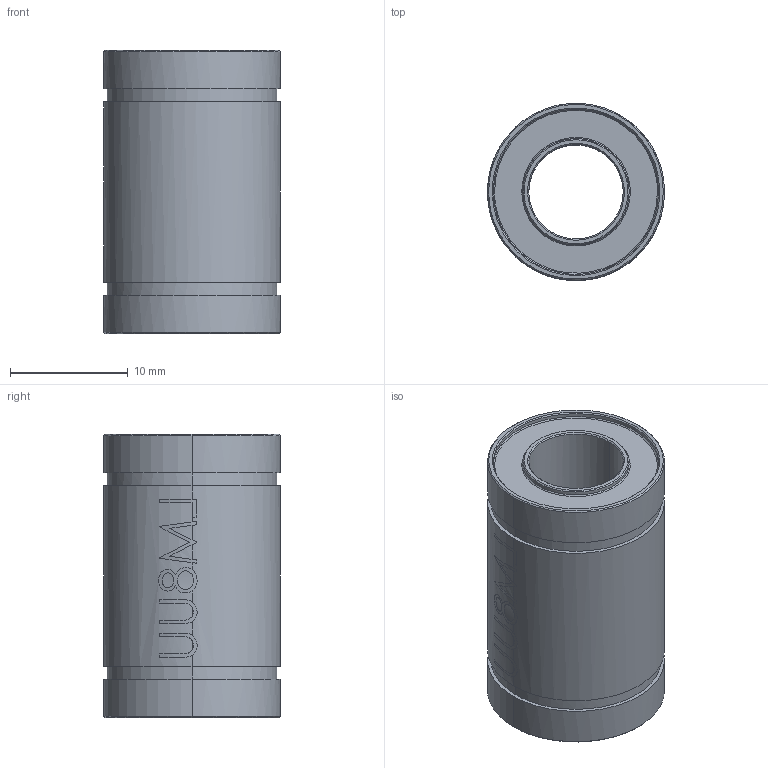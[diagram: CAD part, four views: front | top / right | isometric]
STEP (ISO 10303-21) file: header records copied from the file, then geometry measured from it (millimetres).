
FILE_DESCRIPTION(/* description */ (''),/* implementation_level */ '2;1');
FILE_NAME(/* name */ '240803-DIYUTM-LM8UUBearings',/* time_stamp */ '2024-08-03T10:10:25+02:00',/* author */ (''),/* organization */ (''),/* preprocessor_version */ 'ST-DEVELOPER v16.5',/* originating_system */ 'Rhino 7.37',/* authorisation */ '');
FILE_SCHEMA (('CONFIG_CONTROL_DESIGN'));
Length unit declared in the file: millimetre
Products named in the file (1): Document
Bounding box: 15 x 14.99 x 24 mm (x, y, z)
Volume: 2912.5 mm3; surface area: 2088.9 mm2
Topology: 1 solids, 1 shells, 63 faces, 193 edges, 142 vertices
Faces by surface type: cylinder 31, bspline 22, plane 10
Entity records: 3178 total; most frequent: CARTESIAN_POINT 1911, ORIENTED_EDGE 386, EDGE_CURVE 193, VERTEX_POINT 142, B_SPLINE_CURVE_WITH_KNOTS 118, EDGE_LOOP 75, ADVANCED_FACE 63, FACE_OUTER_BOUND 63
